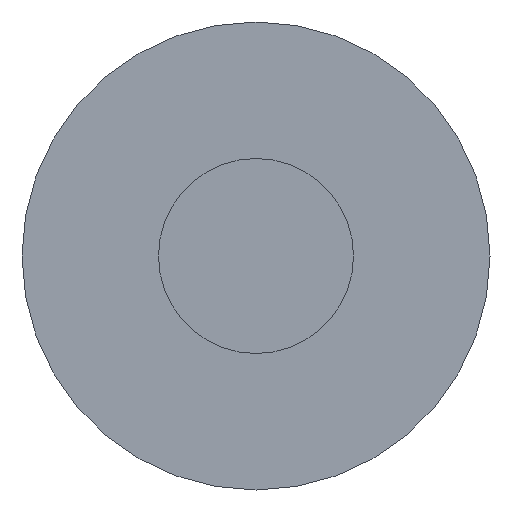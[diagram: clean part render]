
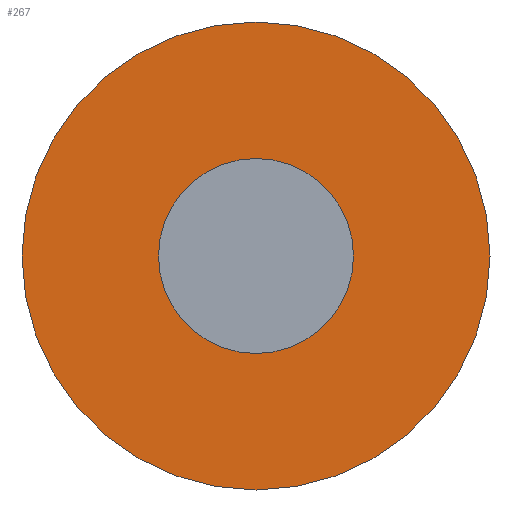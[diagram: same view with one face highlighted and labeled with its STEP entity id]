
A CAD part, left-side view. The second image highlights one B-rep face of the part: STEP entity #267.
In plain terms, the highlighted planar face has unit normal (-1, 0, 0).
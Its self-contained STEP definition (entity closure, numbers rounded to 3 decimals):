
#31 = CYLINDRICAL_SURFACE('',#32,3.);
#32 = AXIS2_PLACEMENT_3D('',#33,#34,#35);
#33 = CARTESIAN_POINT('',(65.8,-66.526,-77.674));
#34 = DIRECTION('',(1.,0.,0.));
#35 = DIRECTION('',(-0.,0.,1.));
#56 = VERTEX_POINT('',#57);
#57 = CARTESIAN_POINT('',(65.8,-66.526,-74.674));
#78 = EDGE_CURVE('',#56,#56,#79,.T.);
#79 = SURFACE_CURVE('',#80,(#85,#92),.PCURVE_S1.);
#80 = CIRCLE('',#81,3.);
#81 = AXIS2_PLACEMENT_3D('',#82,#83,#84);
#82 = CARTESIAN_POINT('',(65.8,-66.526,-77.674));
#83 = DIRECTION('',(1.,0.,0.));
#84 = DIRECTION('',(-0.,0.,1.));
#85 = PCURVE('',#31,#86);
#86 = DEFINITIONAL_REPRESENTATION('',(#87),#91);
#87 = LINE('',#88,#89);
#88 = CARTESIAN_POINT('',(0.,0.));
#89 = VECTOR('',#90,1.);
#90 = DIRECTION('',(1.,0.));
#91 = ( GEOMETRIC_REPRESENTATION_CONTEXT(2) 
PARAMETRIC_REPRESENTATION_CONTEXT() REPRESENTATION_CONTEXT('2D SPACE',''
  ) );
#92 = PCURVE('',#93,#98);
#93 = PLANE('',#94);
#94 = AXIS2_PLACEMENT_3D('',#95,#96,#97);
#95 = CARTESIAN_POINT('',(65.8,-66.526,-77.674));
#96 = DIRECTION('',(1.,0.,0.));
#97 = DIRECTION('',(-0.,0.,1.));
#98 = DEFINITIONAL_REPRESENTATION('',(#99),#103);
#99 = CIRCLE('',#100,3.);
#100 = AXIS2_PLACEMENT_2D('',#101,#102);
#101 = CARTESIAN_POINT('',(0.,0.));
#102 = DIRECTION('',(1.,0.));
#103 = ( GEOMETRIC_REPRESENTATION_CONTEXT(2) 
PARAMETRIC_REPRESENTATION_CONTEXT() REPRESENTATION_CONTEXT('2D SPACE',''
  ) );
#267 = ADVANCED_FACE('',(#268,#271),#93,.F.);
#268 = FACE_BOUND('',#269,.F.);
#269 = EDGE_LOOP('',(#270));
#270 = ORIENTED_EDGE('',*,*,#78,.T.);
#271 = FACE_BOUND('',#272,.F.);
#272 = EDGE_LOOP('',(#273));
#273 = ORIENTED_EDGE('',*,*,#274,.F.);
#274 = EDGE_CURVE('',#275,#275,#277,.T.);
#275 = VERTEX_POINT('',#276);
#276 = CARTESIAN_POINT('',(65.8,-66.526,-76.424));
#277 = SURFACE_CURVE('',#278,(#283,#290),.PCURVE_S1.);
#278 = CIRCLE('',#279,1.25);
#279 = AXIS2_PLACEMENT_3D('',#280,#281,#282);
#280 = CARTESIAN_POINT('',(65.8,-66.526,-77.674));
#281 = DIRECTION('',(1.,0.,0.));
#282 = DIRECTION('',(-0.,0.,1.));
#283 = PCURVE('',#93,#284);
#284 = DEFINITIONAL_REPRESENTATION('',(#285),#289);
#285 = CIRCLE('',#286,1.25);
#286 = AXIS2_PLACEMENT_2D('',#287,#288);
#287 = CARTESIAN_POINT('',(0.,0.));
#288 = DIRECTION('',(1.,0.));
#289 = ( GEOMETRIC_REPRESENTATION_CONTEXT(2) 
PARAMETRIC_REPRESENTATION_CONTEXT() REPRESENTATION_CONTEXT('2D SPACE',''
  ) );
#290 = PCURVE('',#291,#296);
#291 = CYLINDRICAL_SURFACE('',#292,1.25);
#292 = AXIS2_PLACEMENT_3D('',#293,#294,#295);
#293 = CARTESIAN_POINT('',(58.,-66.526,-77.674));
#294 = DIRECTION('',(1.,0.,0.));
#295 = DIRECTION('',(-0.,0.,1.));
#296 = DEFINITIONAL_REPRESENTATION('',(#297),#301);
#297 = LINE('',#298,#299);
#298 = CARTESIAN_POINT('',(0.,7.8));
#299 = VECTOR('',#300,1.);
#300 = DIRECTION('',(1.,0.));
#301 = ( GEOMETRIC_REPRESENTATION_CONTEXT(2) 
PARAMETRIC_REPRESENTATION_CONTEXT() REPRESENTATION_CONTEXT('2D SPACE',''
  ) );
